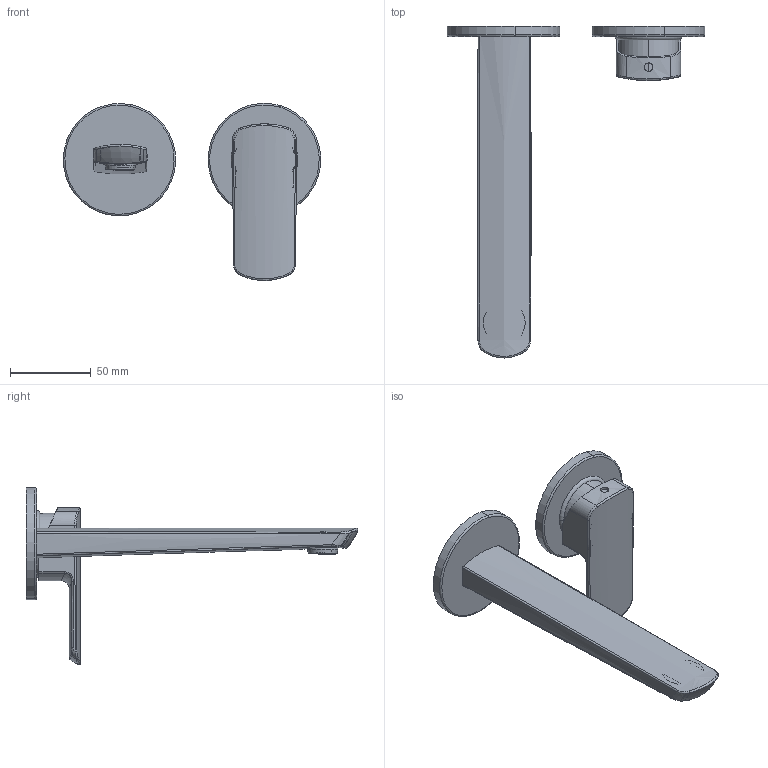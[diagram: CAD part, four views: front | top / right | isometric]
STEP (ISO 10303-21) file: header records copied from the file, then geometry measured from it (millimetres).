
FILE_DESCRIPTION (( 'STEP AP214' ), '1' );
FILE_NAME ('56328110 x architetti.STEP', '2024-11-15T07:42:48', ( '' ), ( '' ), 'SwSTEP 2.0', 'SolidWorks 2020', '' );
FILE_SCHEMA (( 'AUTOMOTIVE_DESIGN' ));
Length unit declared in the file: millimetre
Products named in the file (1): 56328110 x architetti
Bounding box: 159.81 x 206.07 x 109.97 mm (x, y, z)
Volume: 185806.4 mm3; surface area: 49028.8 mm2
Topology: 2 solids, 5 shells, 1493 faces, 3736 edges, 2274 vertices
Faces by surface type: plane 814, cylinder 610, bspline 55, cone 8, torus 6
Entity records: 64529 total; most frequent: CARTESIAN_POINT 16601, ORIENTED_EDGE 7472, DIRECTION 5555, EDGE_CURVE 3736, VECTOR 2301, LINE 2301, VERTEX_POINT 2274, AXIS2_PLACEMENT_3D 1627
